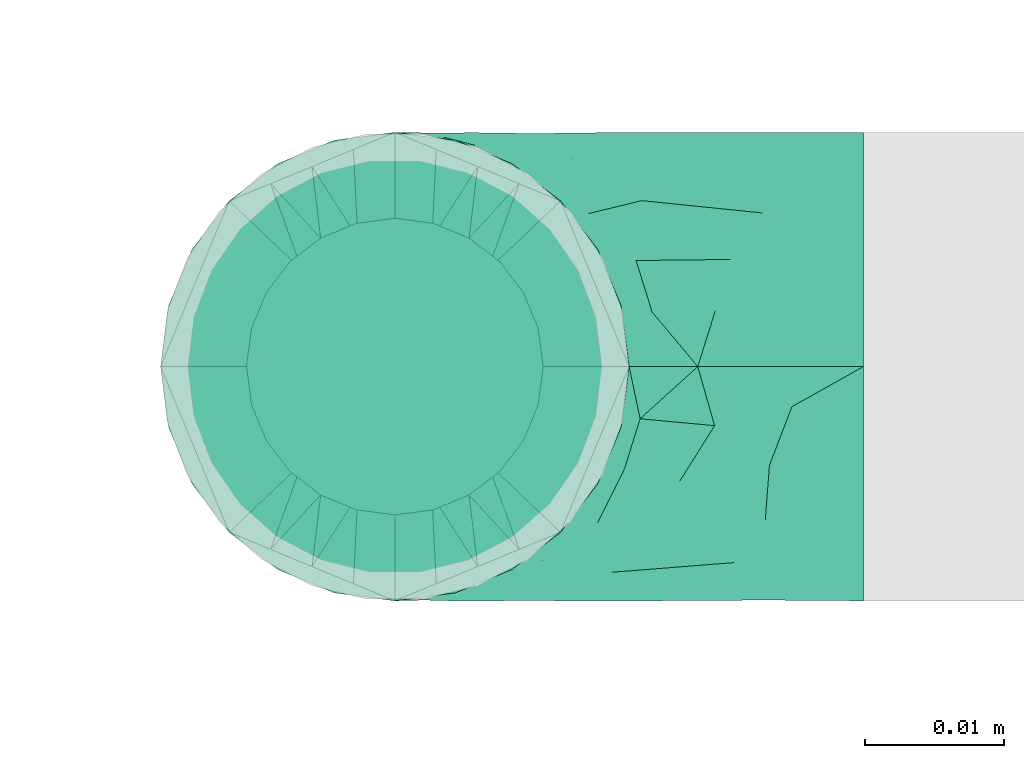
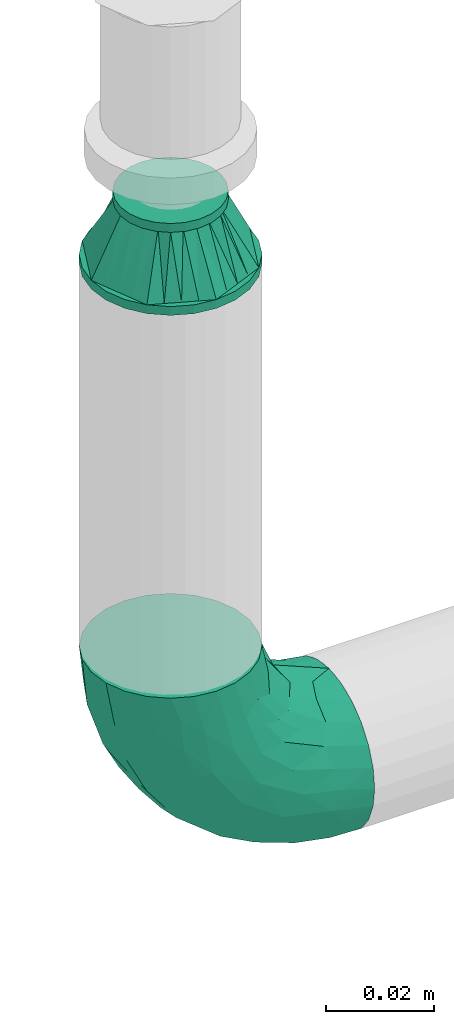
# One storey, part 27 of 157: 2 flow fittings.
"""IFC2X3 building model written with IfcOpenShell, lengths in millimetres."""

from ifc_helpers import new_model, entity, si_unit, converted_unit, derived_unit, direction, frame, origin_with_axes, place, context, subcontext, project, spatial, open_shell, surface_model, source, transform, mapped, type_object, element, save


model = new_model("IFC2X3")

# Units and contexts
model_context = context("Model", 3, precision=0.01, world=frame((0.0, 4.29681676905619e-09, 0.0)), true_north=direction((4.01073788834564e-13, 1.0)))
plan_context = context("Plan", 3, precision=0.01, world=frame((0.0, 4.29681676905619e-09, 0.0)), true_north=direction((4.01073788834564e-13, 1.0)))
body_context = subcontext(model_context, "Body", "Model", "MODEL_VIEW")
ifc_project = project(units=[converted_unit("PLANEANGLEUNIT", "DEGREE", entity("IfcPositiveLengthMeasure", 0.0174532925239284), si_unit("PLANEANGLEUNIT", "RADIAN"), dimensions=[0, 0, 0, 0, 0, 0, 0]), si_unit("AREAUNIT", "SQUARE_METRE"), si_unit("LENGTHUNIT", "METRE", prefix="MILLI"), si_unit("MASSUNIT", "GRAM", prefix="KILO"), si_unit("POWERUNIT", "WATT"), si_unit("PRESSUREUNIT", "PASCAL"), si_unit("FORCEUNIT", "NEWTON", prefix="KILO"), si_unit("ELECTRICCURRENTUNIT", "AMPERE"), si_unit("THERMODYNAMICTEMPERATUREUNIT", "DEGREE_CELSIUS"), si_unit("TIMEUNIT", "SECOND"), si_unit("VOLUMEUNIT", "CUBIC_METRE"), derived_unit("LINEARVELOCITYUNIT", [(si_unit("LENGTHUNIT", "METRE"), 1), (si_unit("TIMEUNIT", "SECOND"), -1)]), derived_unit("VOLUMETRICFLOWRATEUNIT", [(si_unit("VOLUMEUNIT", "CUBIC_METRE"), 1), (si_unit("TIMEUNIT", "SECOND"), -1)]), derived_unit("THERMALTRANSMITTANCEUNIT", [(si_unit("POWERUNIT", "WATT"), 1), (si_unit("THERMODYNAMICTEMPERATUREUNIT", "KELVIN"), -1), (si_unit("AREAUNIT", "SQUARE_METRE"), -1)])], contexts=[model_context, plan_context])

# Site, building, storey
site_placement = place(None, frame((0.0, -4.29681676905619e-09, 0.0), z_axis=(0.0, 0.0, 1.0), x_axis=(1.0, 0.0, 0.0)))
site = spatial("IfcSite", under=ifc_project, at=site_placement, CompositionType="ELEMENT")
building_placement = place(site_placement, frame((0.0, 4.29681676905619e-09, 0.0), z_axis=(0.0, 0.0, 1.0), x_axis=(1.0, 0.0, 0.0)))
building = spatial("IfcBuilding", under=site, at=building_placement, Name="mc-building", CompositionType="ELEMENT")
storey_placement = place(building_placement, frame((0.0, 0.0, 204000.0), z_axis=(0.0, 0.0, 1.0), x_axis=(1.0, 0.0, 0.0)))
storey = spatial("IfcBuildingStorey", under=building, at=storey_placement, Name="Nivå D", CompositionType="ELEMENT", Elevation=204000.0)

# Flow fittings
pipe_fitting_type_1 = type_object("IfcPipeFittingType", Name="magi_pipe_fe_reducer_centric_short_NOR", PredefinedType="TRANSITION")
shared_shape_1 = source(origin_with_axes(), body_context, "Body", "SurfaceModel", [
    surface_model("IfcShellBasedSurfaceModel", [(14.4, 5.35, -9.26647), (14.4, 0.0, -10.7), (14.4, 2.76936, -10.33541), (14.4, 10.33541, -2.76936), (14.4, 7.56604, -7.56604), (14.4, -10.33541, -2.76936), (14.4, 9.26647, -5.35), (14.4, 0.0, 10.7), (14.4, -5.35, -9.26647), (14.4, -2.76936, -10.33541), (14.4, -7.56604, -7.56604), (14.4, -9.26647, -5.35), (14.4, 10.7, 0.0), (14.4, 10.33541, 2.76936), (14.4, 9.26647, 5.35), (14.4, 7.56604, 7.56604), (14.4, 2.76936, 10.33541), (14.4, 5.35, 9.26647), (14.4, -10.33541, 2.76936), (14.4, -7.56604, 7.56604), (14.4, -9.26647, 5.35), (14.4, -10.7, 0.0), (14.4, -2.76936, 10.33541), (14.4, -5.35, 9.26647), (12.4, 2.76936, 10.33541), (12.4, -10.33541, -2.76936), (12.4, 0.0, 10.7), (12.4, 5.35, 9.26647), (12.4, 7.56604, 7.56604), (12.4, 9.26647, 5.35), (12.4, 10.33541, 2.76936), (12.4, -10.33541, 2.76936), (12.4, -2.76936, 10.33541), (12.4, -7.56604, 7.56604), (12.4, -5.35, 9.26647), (12.4, -9.26647, 5.35), (12.4, -10.7, 0.0), (12.4, 10.33541, -2.76936), (12.4, 5.35, -9.26647), (12.4, 9.26647, -5.35), (12.4, 7.56604, -7.56604), (12.4, 2.76936, -10.33541), (12.4, -9.26647, -5.35), (12.4, -5.35, -9.26647), (12.4, -7.56604, -7.56604), (12.4, 0.0, -10.7), (12.4, -2.76936, -10.33541), (12.4, 10.7, 0.0), (-2.0, 11.9501, 11.9501), (-2.0, 0.0, 16.9), (-2.0, 4.37404, 16.32415), (-2.0, 8.45, 14.63583), (-2.0, 14.63583, 8.45), (-2.0, 16.32415, 4.37404), (-2.0, -16.32415, 4.37404), (-2.0, -8.45, 14.63583), (-2.0, -14.63583, 8.45), (-2.0, -11.9501, 11.9501), (-2.0, -4.37404, 16.32415), (-2.0, -16.32415, -4.37404), (-2.0, -16.9, 0.0), (-2.0, -8.45, -14.63583), (-2.0, 16.32415, -4.37404), (-2.0, 11.9501, -11.9501), (-2.0, 14.63583, -8.45), (-2.0, 8.45, -14.63583), (-2.0, 4.37404, -16.32415), (-2.0, 0.0, -16.9), (-2.0, -11.9501, -11.9501), (-2.0, -14.63583, -8.45), (-2.0, -4.37404, -16.32415), (-2.0, 16.9, 0.0), (0.0, 4.37404, -16.32415), (0.0, 8.45, -14.63583), (0.0, 11.9501, -11.9501), (0.0, 0.0, -16.9), (0.0, 16.32415, -4.37404), (0.0, 16.32415, 4.37404), (0.0, 14.63583, -8.45), (0.0, -8.45, -14.63583), (0.0, -4.37404, -16.32415), (0.0, -11.9501, -11.9501), (0.0, -16.32415, -4.37404), (0.0, -14.63583, -8.45), (0.0, -16.32415, 4.37404), (0.0, 16.9, 0.0), (0.0, 14.63583, 8.45), (0.0, 11.9501, 11.9501), (0.0, 4.37404, 16.32415), (0.0, 8.45, 14.63583), (0.0, 0.0, 16.9), (0.0, -14.63583, 8.45), (0.0, -16.9, 0.0), (0.0, -8.45, 14.63583), (0.0, -11.9501, 11.9501), (0.0, -4.37404, 16.32415), (12.4, 9.3625, -2.31662), (0.0, 14.42505, -5.97505), (0.0, 15.66253, -2.98753), (12.4, -6.6875, -6.94985), (0.0, -13.18758, -8.96258), (0.0, 2.98753, -15.66253), (12.4, 0.0, -9.26647), (12.4, 6.6875, -6.94985), (0.0, 8.96258, -13.18758), (12.4, -9.3625, -2.31662), (0.0, -15.66253, -2.98753), (0.0, -14.42505, -5.97505), (0.0, 5.97505, -14.42505), (0.0, -2.98753, -15.66253), (0.0, -8.96258, -13.18758), (0.0, 13.18758, -8.96258), (12.4, 8.025, -4.63324), (12.4, -2.675, -9.26647), (12.4, 2.675, -9.26647), (0.0, -5.97505, -14.42505), (12.4, -8.025, -4.63324), (12.4, -9.3625, 2.31662), (0.0, -14.42505, 5.97505), (0.0, -15.66253, 2.98753), (12.4, 6.6875, 6.94985), (0.0, 13.18758, 8.96258), (0.0, -2.98753, 15.66253), (12.4, 0.0, 9.26647), (12.4, -6.6875, 6.94985), (0.0, -8.96258, 13.18758), (12.4, 9.3625, 2.31662), (0.0, 15.66253, 2.98753), (0.0, 14.42505, 5.97505), (0.0, -5.97505, 14.42505), (0.0, 2.98753, 15.66253), (0.0, 8.96258, 13.18758), (0.0, -13.18758, 8.96258), (12.4, -8.025, 4.63324), (12.4, 2.675, 9.26647), (12.4, -2.675, 9.26647), (0.0, 5.97505, 14.42505), (12.4, 8.025, 4.63324)], [open_shell([[[0, 1, 2]], [[3, 0, 4]], [[5, 0, 3]], [[3, 4, 6]], [[7, 5, 3]], [[1, 8, 9]], [[1, 0, 8]], [[10, 5, 11]], [[5, 10, 8]], [[0, 5, 8]], [[3, 12, 13]], [[13, 14, 15]], [[13, 15, 16]], [[7, 3, 16]], [[16, 15, 17]], [[7, 18, 5]], [[18, 19, 20]], [[21, 5, 18]], [[19, 22, 23]], [[22, 19, 18]], [[7, 22, 18]], [[13, 16, 3]], [[24, 25, 26]], [[27, 25, 24]], [[28, 29, 30]], [[28, 25, 27]], [[31, 26, 25]], [[32, 33, 34]], [[33, 32, 31]], [[33, 31, 35]], [[32, 26, 31]], [[31, 25, 36]], [[30, 37, 28]], [[25, 28, 37]], [[38, 37, 39]], [[37, 38, 25]], [[38, 39, 40]], [[41, 25, 38]], [[42, 43, 44]], [[43, 42, 25]], [[43, 45, 46]], [[43, 25, 41]], [[41, 45, 43]], [[37, 30, 47]], [[25, 5, 36]], [[42, 11, 25]], [[8, 44, 43]], [[42, 44, 10]], [[9, 43, 46]], [[25, 11, 5]], [[5, 21, 36]], [[9, 8, 43]], [[10, 44, 8]], [[10, 11, 42]], [[1, 9, 46]], [[46, 45, 1]], [[41, 2, 45]], [[38, 0, 41]], [[6, 40, 39]], [[38, 40, 4]], [[3, 39, 37]], [[38, 4, 0]], [[0, 2, 41]], [[12, 3, 37]], [[6, 39, 3]], [[6, 4, 40]], [[47, 12, 37]], [[45, 2, 1]], [[30, 13, 47]], [[29, 14, 30]], [[17, 28, 27]], [[29, 28, 15]], [[16, 27, 24]], [[30, 14, 13]], [[13, 12, 47]], [[16, 17, 27]], [[15, 28, 17]], [[15, 14, 29]], [[7, 16, 24]], [[24, 26, 7]], [[32, 22, 26]], [[34, 23, 32]], [[20, 33, 35]], [[34, 33, 19]], [[18, 35, 31]], [[34, 19, 23]], [[23, 22, 32]], [[21, 18, 31]], [[20, 35, 18]], [[20, 19, 33]], [[36, 21, 31]], [[26, 22, 7]], [[48, 49, 50]], [[48, 50, 51]], [[48, 52, 53]], [[48, 53, 49]], [[49, 53, 54]], [[55, 56, 57]], [[55, 58, 49]], [[56, 55, 49]], [[49, 54, 56]], [[54, 59, 60]], [[54, 53, 61]], [[53, 62, 63]], [[63, 62, 64]], [[63, 65, 66]], [[61, 53, 63]], [[67, 63, 66]], [[59, 68, 69]], [[68, 59, 61]], [[61, 67, 70]], [[59, 54, 61]], [[63, 67, 61]], [[53, 71, 62]], [[72, 73, 74]], [[75, 72, 74]], [[74, 76, 77]], [[76, 74, 78]], [[74, 77, 79]], [[75, 79, 80]], [[75, 74, 79]], [[81, 82, 83]], [[82, 81, 79]], [[79, 84, 82]], [[77, 76, 85]], [[77, 86, 87]], [[77, 87, 88]], [[88, 84, 79]], [[88, 87, 89]], [[84, 88, 90]], [[90, 91, 84]], [[92, 82, 84]], [[91, 93, 94]], [[91, 90, 93]], [[93, 90, 95]], [[79, 77, 88]], [[59, 82, 60]], [[69, 83, 59]], [[79, 68, 61]], [[69, 68, 81]], [[80, 61, 70]], [[59, 83, 82]], [[82, 92, 60]], [[80, 79, 61]], [[81, 68, 79]], [[81, 83, 69]], [[75, 80, 70]], [[70, 67, 75]], [[66, 72, 67]], [[65, 73, 66]], [[78, 63, 64]], [[65, 63, 74]], [[76, 64, 62]], [[65, 74, 73]], [[73, 72, 66]], [[85, 76, 62]], [[78, 64, 76]], [[78, 74, 63]], [[71, 85, 62]], [[67, 72, 75]], [[53, 77, 71]], [[52, 86, 53]], [[89, 48, 51]], [[52, 48, 87]], [[88, 51, 50]], [[53, 86, 77]], [[77, 85, 71]], [[88, 89, 51]], [[87, 48, 89]], [[87, 86, 52]], [[90, 88, 50]], [[50, 49, 90]], [[58, 95, 49]], [[55, 93, 58]], [[91, 57, 56]], [[55, 57, 94]], [[84, 56, 54]], [[55, 94, 93]], [[93, 95, 58]], [[92, 84, 54]], [[91, 56, 84]], [[91, 94, 57]], [[60, 92, 54]], [[49, 95, 90]], [[27, 34, 47]], [[47, 34, 43]], [[43, 38, 47]], [[43, 34, 36]], [[90, 87, 94]], [[92, 94, 87]], [[87, 74, 92]], [[75, 92, 74]], [[81, 92, 75]], [[74, 87, 85]], [[96, 97, 98]], [[81, 99, 100]], [[101, 102, 75]], [[98, 85, 47]], [[74, 103, 104]], [[104, 103, 38]], [[105, 106, 107]], [[38, 108, 104]], [[102, 109, 75]], [[110, 99, 81]], [[47, 96, 98]], [[103, 111, 112]], [[109, 102, 113]], [[36, 92, 106]], [[102, 101, 114]], [[110, 115, 43]], [[96, 112, 97]], [[107, 116, 105]], [[36, 106, 105]], [[113, 115, 109]], [[43, 115, 113]], [[116, 107, 100]], [[108, 38, 114]], [[111, 103, 74]], [[111, 97, 112]], [[99, 110, 43]], [[116, 100, 99]], [[101, 108, 114]], [[117, 118, 119]], [[87, 120, 121]], [[122, 123, 90]], [[119, 92, 36]], [[94, 124, 125]], [[125, 124, 34]], [[126, 127, 128]], [[34, 129, 125]], [[123, 130, 90]], [[131, 120, 87]], [[36, 117, 119]], [[124, 132, 133]], [[130, 123, 134]], [[47, 85, 127]], [[123, 122, 135]], [[131, 136, 27]], [[117, 133, 118]], [[128, 137, 126]], [[47, 127, 126]], [[134, 136, 130]], [[27, 136, 134]], [[137, 128, 121]], [[129, 34, 135]], [[132, 124, 94]], [[132, 118, 133]], [[120, 131, 27]], [[137, 121, 120]], [[122, 129, 135]]])]),
])
flow_fitting_1_placement = place(storey_placement, frame((528440.35, 404401.65, 3002.14799999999), z_axis=(0.0, -1.0, 0.0), x_axis=(0.0, 0.0, 1.0)))
element("IfcFlowFitting", 1, at=flow_fitting_1_placement, inside=storey, type_object=pipe_fitting_type_1, Name="magi_pipe_fe_reducer_centric_short_NOR", context=body_context, shape_type="MappedRepresentation", body=[
    mapped(shared_shape_1, transform((0.0, 0.0, 0.0), scale=1.0)),
])
pipe_fitting_type_2 = type_object("IfcPipeFittingType", Name="magi_pipe_fe_elbow_short_001", PredefinedType="BEND")
shared_shape_2 = source(origin_with_axes(), body_context, "Body", "SurfaceModel", [
    surface_model("IfcShellBasedSurfaceModel", [(-33.8, 8.45, -14.63583), (-33.8, 4.37404, -16.32415), (-33.8, 11.9501, -11.9501), (-33.8, -11.9501, -11.9501), (-33.8, -14.63583, -8.45), (-33.8, -8.45, -14.63583), (-33.8, 0.0, -16.9), (-33.8, -4.37404, -16.32415), (-33.8, -4.37404, 16.32415), (-33.8, 0.0, 16.9), (-33.8, -8.45, 14.63583), (-33.8, 16.32415, -4.37404), (-33.8, 14.63583, -8.45), (-33.8, -16.32415, -4.37404), (-33.8, -16.9, 0.0), (-33.8, -16.32415, 4.37404), (-33.8, 11.9501, 11.9501), (-33.8, 14.63583, 8.45), (-33.8, 16.32415, 4.37404), (-33.8, 4.37404, 16.32415), (-33.8, 8.45, 14.63583), (-33.8, -14.63583, 8.45), (-33.8, -11.9501, 11.9501), (-33.8, 16.9, 0.0), (-11.9501, 33.8, -11.9501), (0.0, 33.8, -16.9), (-4.37404, 33.8, -16.32415), (-8.45, 33.8, -14.63583), (-14.63583, 33.8, -8.45), (-16.32415, 33.8, -4.37404), (14.63583, 33.8, -8.45), (8.45, 33.8, 14.63583), (16.32415, 33.8, -4.37404), (8.45, 33.8, -14.63583), (11.9501, 33.8, -11.9501), (4.37404, 33.8, -16.32415), (16.32415, 33.8, 4.37404), (16.9, 33.8, 0.0), (-11.9501, 33.8, 11.9501), (-16.32415, 33.8, 4.37404), (-14.63583, 33.8, 8.45), (-8.45, 33.8, 14.63583), (-4.37404, 33.8, 16.32415), (11.9501, 33.8, 11.9501), (14.63583, 33.8, 8.45), (0.0, 33.8, 16.9), (4.37404, 33.8, 16.32415), (-16.9, 33.8, 0.0), (-24.79389, -13.12945, 9.48721), (-22.19287, -9.75018, 12.59315), (-24.09897, -14.97035, 0.0), (-14.93934, -10.76256, 8.5297), (-22.46095, -14.75051, 5.27077), (14.75051, 22.46094, 5.27077), (11.9251, 13.23888, 4.33236), (13.04069, 14.39795, 0.0), (7.71387, 13.68847, 11.55891), (9.75018, 22.19287, 12.59315), (4.10169, 13.0571, 14.04018), (-24.84007, -6.39063, 15.2048), (-25.81779, -2.23879, 16.61097), (-23.66549, 2.59054, 16.87119), (-26.50418, 14.06512, 11.08152), (-24.21253, 17.66365, 7.72657), (-29.58514, 15.86957, 7.00283), (-6.17382, -7.5455, 0.0), (-13.23888, -11.9251, 4.33236), (-14.39795, -13.04069, 0.0), (-17.81434, 18.87373, 11.97104), (-6.30846, 29.15138, 15.82987), (-2.31622, 25.28002, 16.85849), (-29.23923, 10.23435, 13.77053), (-1.45439, -2.85688, 7.61475), (-0.28326, 0.34872, 10.09509), (-5.74484, -4.04709, 10.4122), (-4.41137, 11.31918, 16.59407), (-8.39727, 3.10034, 15.7812), (-1.72649, 9.1306, 15.53089), (-17.39909, 24.75344, 7.64977), (-26.19233, 20.0512, 0.0), (-28.14518, 17.29657, 4.25857), (-26.05147, 6.6281, 15.96447), (-5.87354, 16.61944, 16.86968), (-12.51807, 12.51807, 16.48937), (-10.06312, 7.38516, 16.81295), (-3.01882, 3.01882, 13.81718), (-13.0571, -4.10169, 14.04018), (-16.82553, -0.15166, 16.38038), (10.76256, 14.93934, 8.5297), (13.12945, 24.79389, 9.48721), (6.39063, 24.84007, 15.2048), (2.23879, 25.81779, 16.61097), (-13.68847, -7.71387, 11.55891), (14.97035, 24.09897, 0.0), (-7.30894, 22.89991, 16.09489), (-10.67958, 26.17414, 14.008), (-12.78295, 18.26924, 15.06066), (-13.88562, 22.45231, 12.93244), (-18.04944, 15.16501, 14.04434), (-23.11658, 20.08178, 4.02986), (-21.84989, 21.84989, 0.0), (-18.55817, 25.48277, 3.93065), (-13.95142, 26.94732, 11.03289), (-18.57098, 7.23906, 16.59756), (-16.58335, 4.14122, 16.89279), (-17.96666, 11.46709, 15.63151), (-9.84453, 17.54304, 16.18938), (0.15166, 16.82553, 16.38038), (-23.27207, 11.47201, 14.23154), (3.84842, 5.86994, 10.70473), (-8.0212, -7.54413, 7.93275), (1.00345, -2.19508, 4.57414), (5.13203, 3.01004, 5.90201), (5.24161, 1.7543, 2.53265), (8.70457, 7.04947, 3.99182), (-20.0512, 26.19233, 0.0), (8.4852, 8.76699, 7.09296), (-4.55488, -6.72064, 4.90681), (2.05031, -2.05031, 0.0), (7.5455, 6.17382, 0.0), (-26.75399, 2.1369, -16.845), (-14.61995, 24.73803, -11.27736), (-28.45274, -13.45335, -9.81895), (-26.00469, 6.63555, -15.96645), (-23.06726, 20.04573, -4.26202), (-13.80647, -4.26506, -14.17873), (-14.67501, -0.21081, -16.07388), (-6.7902, -0.2828, -13.8478), (-24.53586, 11.08096, -14.13417), (-26.72048, 14.00837, -11.05776), (10.0967, 24.44989, -12.75976), (5.83237, 21.40218, -15.03047), (6.66249, 28.54238, -15.38093), (-20.38182, 15.48705, -12.74596), (12.53268, 21.23441, -9.15363), (12.54494, 15.67504, -5.54878), (9.7522, 12.89279, -8.66343), (-15.65186, 19.64213, -13.01327), (-12.03528, 20.66498, -14.67665), (-15.61907, 15.61906, -14.83879), (-25.56551, -15.26206, 0.0), (-24.65452, -15.12934, -5.50955), (13.45335, 28.45274, -9.81895), (15.12934, 24.65452, -5.50955), (-7.35442, -8.31014, -5.65563), (-15.67504, -12.54494, -5.54878), (-24.44989, -10.0967, -12.75976), (0.16522, 0.41303, -9.71728), (-5.70658, -5.33066, -8.89288), (-5.13869, -2.37198, -11.53565), (-21.23441, -12.53268, -9.15363), (0.71146, 7.93863, -14.09382), (0.21081, 14.67501, -16.07388), (3.49291, 14.42772, -14.76381), (-24.89911, -2.13088, -16.591), (-28.54238, -6.66249, -15.38093), (-18.44386, -7.71663, -13.26957), (2.13088, 24.89911, -16.591), (-28.64342, 17.44413, -2.89318), (1.70017, -1.28722, -5.09504), (-16.57067, 26.81947, -7.36596), (-17.69055, 27.4263, -3.76405), (-12.89279, -9.7522, -8.66343), (-5.96611, 5.96611, -15.95814), (-20.53709, 20.09345, -8.28985), (-2.1369, 26.75399, -16.845), (-6.89872, 24.58781, -16.02578), (-10.60739, 26.53157, -13.98044), (-21.40218, -5.83237, -15.03047), (2.93192, 5.89627, -11.55917), (6.89393, 12.61842, -11.82233), (5.58056, 5.95325, -8.79455), (-3.99512, 18.61798, -16.89635), (8.31014, 7.35442, -5.65563), (-9.1383, 9.86148, -16.89041), (-9.99983, 16.02119, -16.39699), (-16.68576, 9.78031, -16.34199), (-27.01915, 16.61158, -7.12979), (15.26206, 25.56551, 0.0), (-18.61798, 3.99512, -16.89635), (-19.37495, 27.82495, 0.0), (-12.61842, -6.89393, -11.82233), (-18.84705, 19.14018, -10.96545)], [open_shell([[[0, 1, 2]], [[3, 4, 5]], [[6, 7, 5]], [[8, 9, 10]], [[1, 6, 2]], [[11, 12, 2]], [[4, 2, 6]], [[2, 13, 10]], [[5, 4, 6]], [[2, 4, 13]], [[14, 15, 13]], [[11, 2, 16]], [[11, 17, 18]], [[11, 16, 17]], [[19, 20, 16]], [[16, 2, 10]], [[19, 16, 10]], [[21, 22, 15]], [[22, 13, 15]], [[22, 10, 13]], [[10, 9, 19]], [[11, 18, 23]], [[24, 25, 26]], [[24, 26, 27]], [[24, 28, 29]], [[25, 24, 30]], [[31, 32, 24]], [[33, 30, 34]], [[33, 35, 25]], [[25, 30, 33]], [[32, 30, 24]], [[32, 36, 37]], [[38, 24, 29]], [[39, 40, 29]], [[40, 38, 29]], [[38, 41, 42]], [[38, 31, 24]], [[31, 38, 42]], [[36, 43, 44]], [[36, 32, 43]], [[31, 45, 46]], [[32, 31, 43]], [[42, 45, 31]], [[39, 29, 47]], [[22, 48, 49]], [[15, 14, 50]], [[51, 48, 52]], [[53, 54, 55]], [[48, 22, 21]], [[15, 52, 21]], [[56, 57, 58]], [[49, 10, 22]], [[49, 59, 10]], [[9, 60, 61]], [[62, 63, 64]], [[65, 66, 67]], [[57, 43, 31]], [[62, 68, 63]], [[42, 69, 70]], [[20, 71, 16]], [[8, 60, 9]], [[72, 73, 74]], [[75, 76, 77]], [[16, 62, 17]], [[40, 39, 78]], [[79, 23, 80]], [[64, 18, 17]], [[9, 61, 19]], [[19, 81, 20]], [[82, 83, 84]], [[74, 85, 86]], [[59, 86, 87]], [[88, 89, 57]], [[90, 31, 46]], [[44, 53, 36]], [[46, 45, 91]], [[54, 53, 88]], [[44, 89, 53]], [[92, 86, 49]], [[89, 44, 43]], [[10, 59, 8]], [[53, 55, 93]], [[93, 36, 53]], [[66, 52, 67]], [[94, 82, 70]], [[95, 96, 94]], [[97, 98, 96]], [[79, 99, 100]], [[41, 38, 95]], [[101, 100, 99]], [[68, 78, 63]], [[42, 41, 69]], [[23, 18, 80]], [[95, 94, 69]], [[78, 101, 99]], [[38, 102, 95]], [[70, 45, 42]], [[97, 95, 102]], [[15, 50, 52]], [[90, 57, 31]], [[57, 90, 58]], [[81, 19, 61]], [[103, 104, 84]], [[105, 81, 103]], [[38, 40, 102]], [[106, 96, 83]], [[94, 106, 82]], [[91, 70, 107]], [[71, 62, 16]], [[62, 108, 98]], [[86, 59, 49]], [[67, 52, 50]], [[60, 59, 87]], [[92, 49, 51]], [[86, 85, 76]], [[91, 90, 46]], [[37, 36, 93]], [[107, 77, 58]], [[107, 58, 90]], [[58, 85, 109]], [[110, 74, 92]], [[72, 74, 110]], [[66, 51, 52]], [[72, 111, 112]], [[113, 114, 112]], [[56, 88, 57]], [[52, 48, 21]], [[49, 48, 51]], [[57, 89, 43]], [[53, 89, 88]], [[103, 81, 61]], [[71, 81, 108]], [[18, 64, 80]], [[63, 78, 99]], [[47, 115, 101]], [[101, 115, 100]], [[40, 78, 102]], [[68, 102, 78]], [[97, 96, 95]], [[105, 98, 108]], [[103, 84, 83]], [[107, 70, 82]], [[76, 84, 87]], [[82, 84, 75]], [[70, 91, 45]], [[90, 91, 107]], [[59, 60, 8]], [[61, 60, 87]], [[73, 85, 74]], [[109, 112, 116]], [[103, 61, 104]], [[105, 103, 83]], [[96, 105, 83]], [[81, 105, 108]], [[96, 98, 105]], [[62, 98, 68]], [[61, 87, 104]], [[87, 84, 104]], [[86, 76, 87]], [[77, 76, 85]], [[58, 77, 85]], [[75, 77, 107]], [[82, 75, 107]], [[76, 75, 84]], [[81, 71, 20]], [[62, 71, 108]], [[95, 69, 41]], [[70, 69, 94]], [[62, 64, 17]], [[80, 63, 99]], [[63, 80, 64]], [[80, 99, 79]], [[66, 65, 117]], [[110, 66, 117]], [[112, 114, 116]], [[118, 117, 65]], [[110, 92, 51]], [[112, 111, 113]], [[119, 55, 54]], [[74, 86, 92]], [[58, 109, 56]], [[116, 56, 109]], [[66, 110, 51]], [[72, 110, 117]], [[111, 72, 117]], [[73, 112, 109]], [[117, 118, 111]], [[113, 111, 118]], [[118, 119, 113]], [[114, 119, 54]], [[119, 114, 113]], [[116, 54, 88]], [[54, 116, 114]], [[116, 88, 56]], [[112, 73, 72]], [[85, 73, 109]], [[78, 39, 101]], [[47, 101, 39]], [[102, 68, 97]], [[97, 68, 98]], [[82, 106, 83]], [[94, 96, 106]], [[1, 120, 6]], [[28, 24, 121]], [[3, 122, 4]], [[0, 123, 1]], [[100, 124, 79]], [[125, 126, 127]], [[128, 2, 129]], [[130, 131, 132]], [[128, 129, 133]], [[134, 135, 136]], [[137, 138, 139]], [[128, 0, 2]], [[67, 140, 141]], [[134, 142, 143]], [[141, 13, 4]], [[144, 65, 145]], [[146, 3, 5]], [[147, 148, 149]], [[145, 141, 150]], [[151, 152, 153]], [[154, 7, 6]], [[5, 155, 146]], [[150, 146, 156]], [[155, 5, 7]], [[143, 135, 134]], [[35, 157, 25]], [[23, 79, 158]], [[148, 159, 144]], [[160, 161, 29]], [[145, 162, 144]], [[163, 152, 151]], [[29, 28, 160]], [[121, 164, 160]], [[33, 34, 130]], [[25, 165, 26]], [[26, 165, 166]], [[142, 34, 30]], [[24, 27, 167]], [[124, 161, 164]], [[157, 35, 132]], [[155, 154, 168]], [[123, 0, 128]], [[169, 170, 171]], [[172, 157, 152]], [[26, 166, 27]], [[132, 35, 33]], [[142, 130, 34]], [[168, 154, 126]], [[136, 135, 173]], [[133, 137, 139]], [[2, 12, 129]], [[170, 131, 130]], [[30, 32, 143]], [[172, 174, 175]], [[176, 123, 128]], [[158, 177, 11]], [[135, 55, 119]], [[167, 27, 166]], [[175, 166, 172]], [[137, 167, 138]], [[122, 141, 4]], [[140, 14, 13]], [[32, 37, 178]], [[170, 130, 134]], [[152, 157, 131]], [[165, 157, 172]], [[153, 170, 151]], [[152, 163, 174]], [[168, 125, 156]], [[122, 146, 150]], [[120, 154, 6]], [[179, 174, 126]], [[179, 126, 154]], [[126, 163, 127]], [[162, 145, 150]], [[140, 13, 141]], [[32, 178, 143]], [[55, 143, 178]], [[177, 129, 12]], [[128, 133, 139]], [[176, 128, 139]], [[120, 123, 179]], [[121, 160, 28]], [[161, 100, 180]], [[166, 175, 138]], [[121, 24, 167]], [[161, 47, 29]], [[79, 124, 158]], [[124, 164, 177]], [[161, 124, 100]], [[136, 171, 170]], [[127, 163, 151]], [[147, 171, 159]], [[148, 144, 162]], [[127, 151, 169]], [[127, 181, 125]], [[129, 177, 164]], [[12, 11, 177]], [[159, 65, 144]], [[67, 141, 145]], [[143, 55, 135]], [[135, 119, 173]], [[123, 120, 1]], [[154, 120, 179]], [[157, 165, 25]], [[166, 165, 172]], [[172, 152, 174]], [[176, 139, 175]], [[126, 174, 163]], [[176, 174, 179]], [[174, 176, 175]], [[123, 176, 179]], [[150, 181, 162]], [[127, 149, 181]], [[181, 148, 162]], [[159, 148, 147]], [[171, 136, 173]], [[170, 134, 136]], [[159, 171, 173]], [[171, 147, 169]], [[169, 147, 149]], [[151, 170, 169]], [[164, 182, 129]], [[182, 121, 137]], [[181, 149, 148]], [[169, 149, 127]], [[182, 137, 133]], [[167, 137, 121]], [[166, 138, 167]], [[175, 139, 138]], [[129, 182, 133]], [[121, 182, 164]], [[161, 160, 164]], [[47, 161, 180]], [[177, 158, 124]], [[23, 158, 11]], [[130, 132, 33]], [[157, 132, 131]], [[143, 142, 30]], [[130, 142, 134]], [[154, 155, 7]], [[146, 155, 168]], [[146, 122, 3]], [[141, 122, 150]], [[152, 131, 153]], [[159, 119, 118]], [[67, 145, 65]], [[170, 153, 131]], [[119, 159, 173]], [[159, 118, 65]], [[156, 125, 181]], [[126, 125, 168]], [[150, 156, 181]], [[168, 156, 146]]])]),
])
flow_fitting_2_placement = place(storey_placement, frame((528440.35, 404401.65, 2880.0), z_axis=(0.0, 1.0, 0.0), x_axis=(-1.0, 0.0, 0.0)))
element("IfcFlowFitting", 2, at=flow_fitting_2_placement, inside=storey, type_object=pipe_fitting_type_2, Name="magi_pipe_fe_elbow_short_001", context=body_context, shape_type="MappedRepresentation", body=[
    mapped(shared_shape_2, transform((0.0, 0.0, 0.0), scale=1.0)),
])

save(model, "model.ifc")
